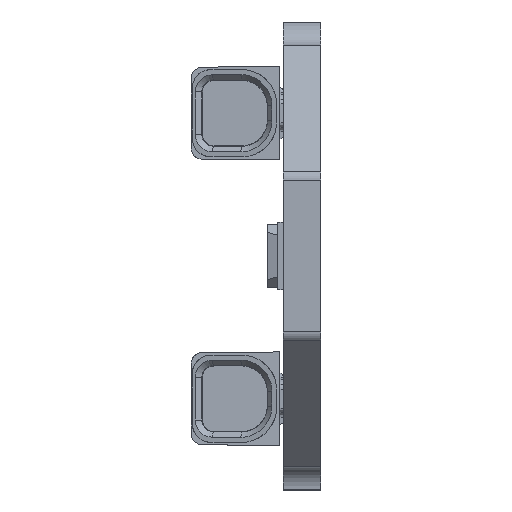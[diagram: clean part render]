
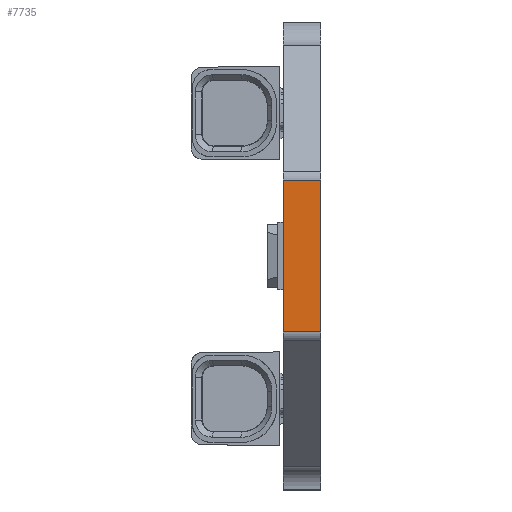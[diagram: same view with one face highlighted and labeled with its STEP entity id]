
A CAD part, left-side view. The second image highlights one B-rep face of the part: STEP entity #7735.
In plain terms, the highlighted planar face has unit normal (-1, 0, 0).
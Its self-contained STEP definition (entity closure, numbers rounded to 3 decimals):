
#383 = DIRECTION ( 'NONE',  ( 0., 1., 0. ) ) ;
#852 = DIRECTION ( 'NONE',  ( 1., 0., 0. ) ) ;
#1003 = PLANE ( 'NONE',  #1196 ) ;
#1196 = AXIS2_PLACEMENT_3D ( 'NONE', #7632, #852, #383 ) ;
#1284 = EDGE_LOOP ( 'NONE', ( #19960, #26454, #11675, #20240 ) ) ;
#2639 = CARTESIAN_POINT ( 'NONE',  ( 0., 6.757, 1.6 ) ) ;
#2732 = LINE ( 'NONE', #39330, #37658 ) ;
#2812 = DIRECTION ( 'NONE',  ( 0., 0., -1. ) ) ;
#5368 = LINE ( 'NONE', #2639, #14376 ) ;
#7632 = CARTESIAN_POINT ( 'NONE',  ( 0., 13.243, 1.6 ) ) ;
#7735 = ADVANCED_FACE ( 'NONE', ( #10448 ), #1003, .F. ) ;
#10448 = FACE_OUTER_BOUND ( 'NONE', #1284, .T. ) ;
#11675 = ORIENTED_EDGE ( 'NONE', *, *, #21033, .F. ) ;
#12318 = VERTEX_POINT ( 'NONE', #12753 ) ;
#12753 = CARTESIAN_POINT ( 'NONE',  ( 0., 13.243, 0. ) ) ;
#13219 = CARTESIAN_POINT ( 'NONE',  ( 0., 13.243, 1.6 ) ) ;
#14376 = VECTOR ( 'NONE', #2812, 1000. ) ;
#15929 = LINE ( 'NONE', #27150, #23825 ) ;
#16577 = LINE ( 'NONE', #17776, #24484 ) ;
#17109 = VERTEX_POINT ( 'NONE', #19687 ) ;
#17231 = DIRECTION ( 'NONE',  ( 0., 0., -1. ) ) ;
#17776 = CARTESIAN_POINT ( 'NONE',  ( 0., 13.243, 1.6 ) ) ;
#19687 = CARTESIAN_POINT ( 'NONE',  ( 0., 6.757, 0. ) ) ;
#19960 = ORIENTED_EDGE ( 'NONE', *, *, #25926, .T. ) ;
#20240 = ORIENTED_EDGE ( 'NONE', *, *, #40117, .T. ) ;
#20924 = CARTESIAN_POINT ( 'NONE',  ( 0., 6.757, 1.6 ) ) ;
#21033 = EDGE_CURVE ( 'NONE', #34295, #30257, #2732, .T. ) ;
#23825 = VECTOR ( 'NONE', #26907, 1000. ) ;
#24484 = VECTOR ( 'NONE', #17231, 1000. ) ;
#25926 = EDGE_CURVE ( 'NONE', #12318, #17109, #15929, .T. ) ;
#26454 = ORIENTED_EDGE ( 'NONE', *, *, #40375, .F. ) ;
#26907 = DIRECTION ( 'NONE',  ( 0., -1., 0. ) ) ;
#27150 = CARTESIAN_POINT ( 'NONE',  ( 0., 13.243, 0. ) ) ;
#30257 = VERTEX_POINT ( 'NONE', #20924 ) ;
#34295 = VERTEX_POINT ( 'NONE', #13219 ) ;
#34992 = DIRECTION ( 'NONE',  ( 0., -1., 0. ) ) ;
#37658 = VECTOR ( 'NONE', #34992, 1000. ) ;
#39330 = CARTESIAN_POINT ( 'NONE',  ( 0., 13.243, 1.6 ) ) ;
#40117 = EDGE_CURVE ( 'NONE', #34295, #12318, #16577, .T. ) ;
#40375 = EDGE_CURVE ( 'NONE', #30257, #17109, #5368, .T. ) ;
